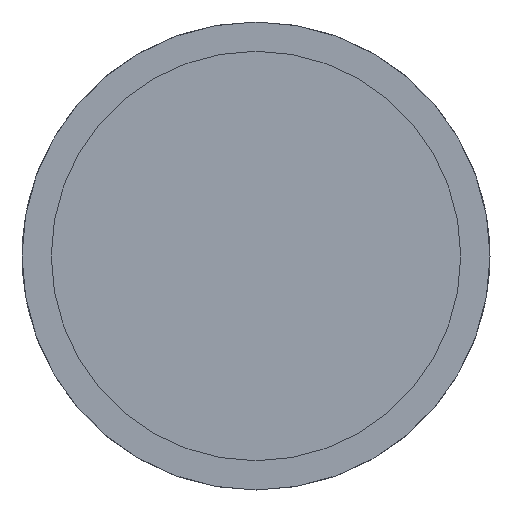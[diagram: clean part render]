
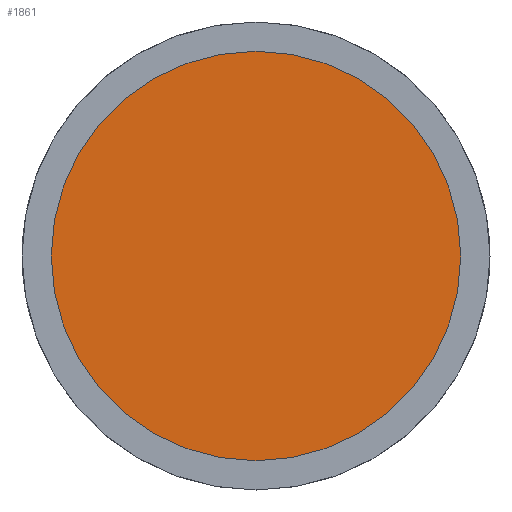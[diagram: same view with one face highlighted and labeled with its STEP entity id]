
A CAD part, front view. The second image highlights one B-rep face of the part: STEP entity #1861.
In plain terms, the highlighted planar face has unit normal (0, -1, 0).
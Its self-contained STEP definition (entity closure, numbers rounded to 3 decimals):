
#155 = DIRECTION ( 'NONE',  ( 0., 1., 0. ) ) ;
#260 = AXIS2_PLACEMENT_3D ( 'NONE', #1093, #509, #2297 ) ;
#336 = EDGE_LOOP ( 'NONE', ( #1831, #1664 ) ) ;
#357 = PLANE ( 'NONE',  #260 ) ;
#509 = DIRECTION ( 'NONE',  ( 0., -1., 0. ) ) ;
#786 = EDGE_CURVE ( 'NONE', #988, #900, #1145, .T. ) ;
#900 = VERTEX_POINT ( 'NONE', #1812 ) ;
#912 = AXIS2_PLACEMENT_3D ( 'NONE', #2189, #155, #1608 ) ;
#968 = CARTESIAN_POINT ( 'NONE',  ( 35., 0., 0. ) ) ;
#988 = VERTEX_POINT ( 'NONE', #968 ) ;
#990 = DIRECTION ( 'NONE',  ( 0., 1., 0. ) ) ;
#1093 = CARTESIAN_POINT ( 'NONE',  ( 0., 0., 0. ) ) ;
#1145 = CIRCLE ( 'NONE', #1259, 35. ) ;
#1148 = CARTESIAN_POINT ( 'NONE',  ( 0., 0., 0. ) ) ;
#1259 = AXIS2_PLACEMENT_3D ( 'NONE', #1148, #990, #1702 ) ;
#1439 = FACE_OUTER_BOUND ( 'NONE', #336, .T. ) ;
#1452 = EDGE_CURVE ( 'NONE', #900, #988, #1920, .T. ) ;
#1608 = DIRECTION ( 'NONE',  ( -1., 0., 0. ) ) ;
#1664 = ORIENTED_EDGE ( 'NONE', *, *, #786, .F. ) ;
#1702 = DIRECTION ( 'NONE',  ( -1., 0., 0. ) ) ;
#1812 = CARTESIAN_POINT ( 'NONE',  ( -35., 0., 0. ) ) ;
#1831 = ORIENTED_EDGE ( 'NONE', *, *, #1452, .F. ) ;
#1861 = ADVANCED_FACE ( 'NONE', ( #1439 ), #357, .T. ) ;
#1920 = CIRCLE ( 'NONE', #912, 35. ) ;
#2189 = CARTESIAN_POINT ( 'NONE',  ( 0., 0., 0. ) ) ;
#2297 = DIRECTION ( 'NONE',  ( 1., 0., 0. ) ) ;
